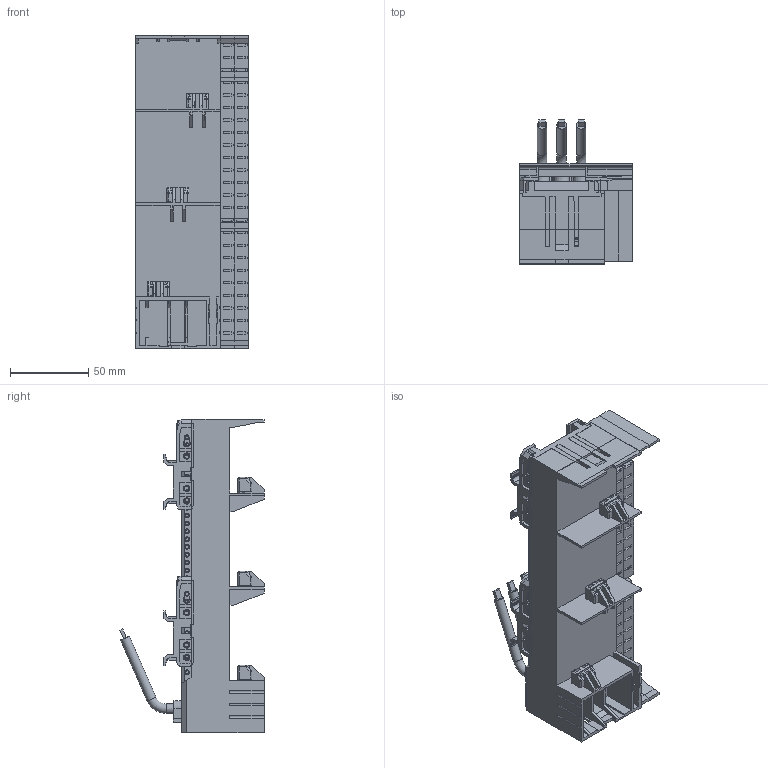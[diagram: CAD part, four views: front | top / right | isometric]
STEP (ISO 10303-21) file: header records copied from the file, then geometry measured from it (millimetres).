
FILE_DESCRIPTION (( 'STEP AP203' ), '1' );
FILE_NAME ('55371.STEP', '2021-08-18T05:50:08', ( '' ), ( '' ), 'SwSTEP 2.0', 'SolidWorks 2017', '' );
FILE_SCHEMA (( 'CONFIG_CONTROL_DESIGN' ));
Length unit declared in the file: millimetre
Products named in the file (2): 55371
Bounding box: 72.05 x 92.2 x 200.4 mm (x, y, z)
Volume: 416863.8 mm3; surface area: 144568.4 mm2
Topology: 10 solids, 27 shells, 2607 faces, 7156 edges, 4770 vertices
Faces by surface type: plane 1885, cylinder 475, cone 173, bspline 71, torus 3
Full cylindrical faces by diameter (mm): 1.988 x130, 2.6 x14, 2.982 x12, 3.479 x8, 4.2 x2, 5.169 x2, 5.964 x11, 6 x6
Entity records: 100808 total; most frequent: CARTESIAN_POINT 37515, ORIENTED_EDGE 13330, DIRECTION 11810, EDGE_CURVE 6665, VECTOR 4950, LINE 4950, VERTEX_POINT 4628, AXIS2_PLACEMENT_3D 3430
